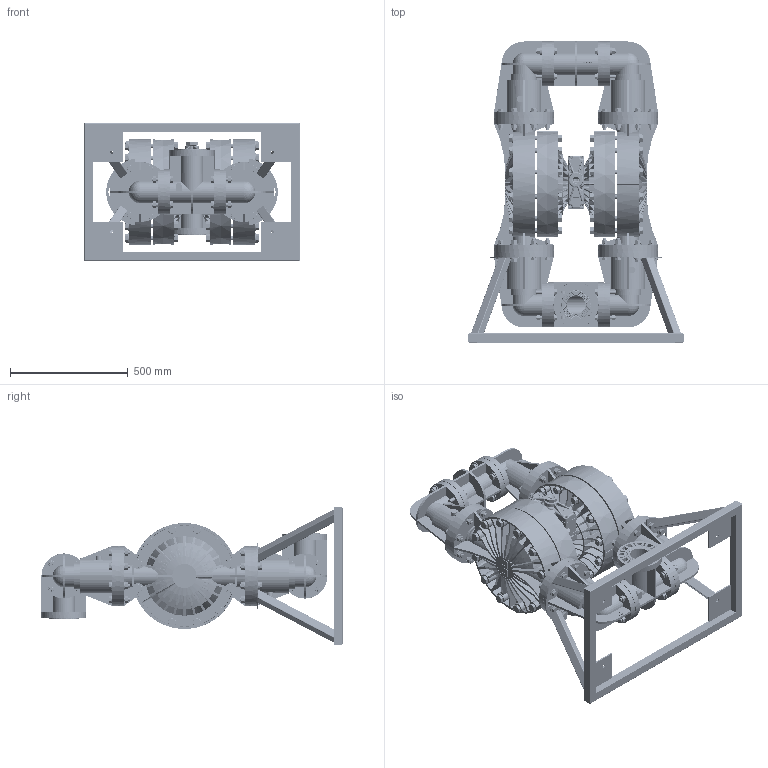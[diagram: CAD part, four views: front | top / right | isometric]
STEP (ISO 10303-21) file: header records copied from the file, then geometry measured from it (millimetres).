
FILE_DESCRIPTION((''),'2;1');
FILE_NAME('PS1500_ADV_PLST_POLY__SW0003','2014-10-22T',('nathan.hale'),(''),'PRO/ENGINEER BY PARAMETRIC TECHNOLOGY CORPORATION, 2011180','PRO/ENGINEER BY PARAMETRIC TECHNOLOGY CORPORATION, 2011180','');
FILE_SCHEMA(('CONFIG_CONTROL_DESIGN'));
Products named in the file (1): PS1500_ADV_PLST_POLY__SW0003
Bounding box: 914.4 x 1278.87 x 584.2 mm (x, y, z)
Volume: 57254166.9 mm3; surface area: 9978828.1 mm2
Topology: 9 solids, 13 shells, 27194 faces, 68307 edges, 42317 vertices
Faces by surface type: plane 14403, cylinder 3942, bspline 3464, cone 2478, torus 1505, sphere 1318, extrusion 84
Entity records: 1235397 total; most frequent: CARTESIAN_POINT 610458, ORIENTED_EDGE 136582, DIRECTION 120760, EDGE_CURVE 68291, VERTEX_POINT 42317, AXIS2_PLACEMENT_3D 40630, VECTOR 39500, LINE 39416
